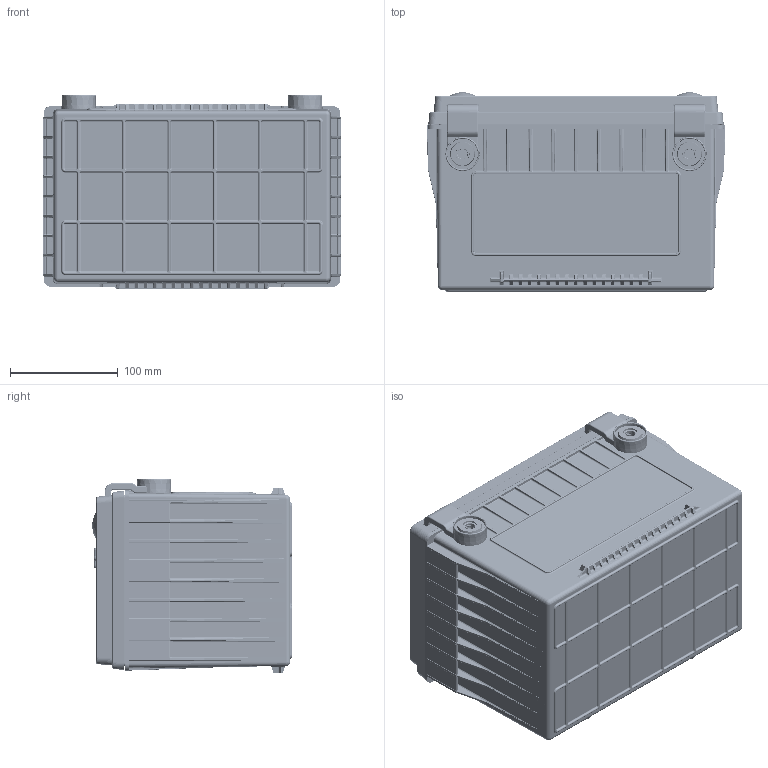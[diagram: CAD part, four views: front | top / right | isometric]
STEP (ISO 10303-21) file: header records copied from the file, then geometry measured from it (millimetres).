
FILE_DESCRIPTION (( 'STEP AP203' ), '1' );
FILE_NAME ('ODX-AGM78.STEP', '2024-04-15T14:31:11', ( '' ), ( '' ), 'SwSTEP 2.0', 'SolidWorks 2022', '' );
FILE_SCHEMA (( 'CONFIG_CONTROL_DESIGN' ));
Products named in the file (1): ODX-AGM78
Bounding box: 275.53 x 184.73 x 179.98 mm (x, y, z)
Volume: 1320086.6 mm3; surface area: 1033941.8 mm2
Topology: 21 solids, 21 shells, 8418 faces, 21000 edges, 12416 vertices
Faces by surface type: cylinder 3278, plane 2569, bspline 1480, torus 440, sphere 381, cone 270
Full cylindrical faces by diameter (mm): 3.175 x32, 3.81 x1, 5 x2, 6.35 x2, 7.62 x1, 8.001 x6, 9.5 x2, 10.795 x2, 10.922 x4, 12 x22, 15.875 x4, 20.218 x2, 24.282 x4, 28.448 x2, 31.648 x4
Entity records: 291583 total; most frequent: CARTESIAN_POINT 113007, ORIENTED_EDGE 40358, DIRECTION 33952, EDGE_CURVE 20179, VERTEX_POINT 12214, AXIS2_PLACEMENT_3D 12136, VECTOR 9680, LINE 9680
